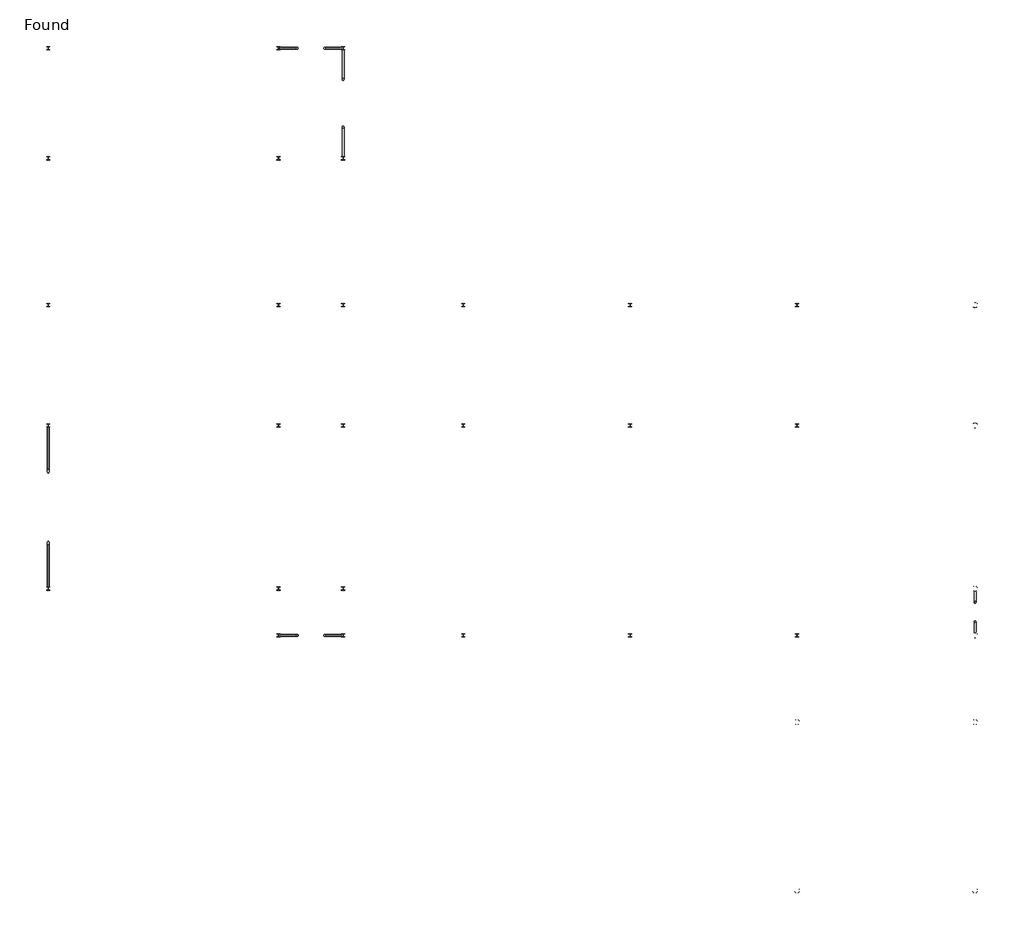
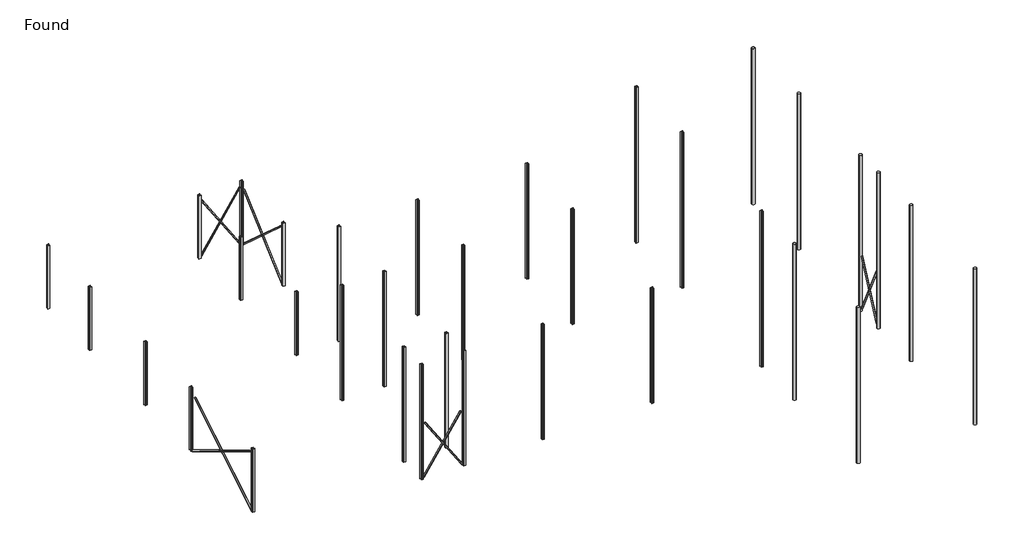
# One storey: 34 columns, 10 beams.
"""IFC4 building model written with IfcOpenShell, lengths in millimetres."""

import ifcopenshell
import ifcopenshell.guid

model = None  # the IFC model being written
_history = None  # IfcOwnerHistory: only IFC2X3 demands one
_inside = {}  # id of a spatial element -> (the spatial element, [elements in it])
_under = {}  # id of a project, library or spatial element -> (it, [spatial elements below it])
_declared = {}  # id of a project -> (the project, [libraries it declares])
_typed = {}  # id of a type object -> (the type object, [elements of that type])
_made_of = {}  # id of a material, layer set ... -> (it, [elements and type objects made of it])


def new_model(schema):
    """Start an empty IFC model of exactly this schema.

    Asked for "IFC4X3", IfcOpenShell would pick the latest addendum, in which some entities
    have other attributes; the version numbers below select the first issue.
    IFC2X3 requires an IfcOwnerHistory on every rooted entity: one is made here for all.
    """
    global model, _history
    if schema == "IFC4X3":
        model = ifcopenshell.file(schema_version=(4, 3, 0, 0))
    else:
        model = ifcopenshell.file(schema=schema)
    _inside.clear()
    _under.clear()
    _declared.clear()
    _typed.clear()
    _made_of.clear()
    _history = None
    if model.schema == "IFC2X3":
        org = make("IfcOrganization", Name="unknown")
        user = make(
            "IfcPersonAndOrganization",
            ThePerson=make("IfcPerson", FamilyName="unknown"),
            TheOrganization=org,
        )
        app = make(
            "IfcApplication",
            ApplicationDeveloper=org,
            Version="unknown",
            ApplicationFullName="unknown",
            ApplicationIdentifier="unknown",
        )
        _history = make(
            "IfcOwnerHistory",
            OwningUser=user,
            OwningApplication=app,
            ChangeAction="ADDED",
            CreationDate=0,
        )
    return model


def make(cls, **values):
    """One entity of the class cls with the attributes given. An attribute that is None is left unset."""
    return model.create_entity(
        cls, **{name: value for name, value in values.items() if value is not None}
    )


def rooted(cls, **values):
    """An entity with a GlobalId (a new one), such as an element, a storey or a relation."""
    return make(cls, GlobalId=ifcopenshell.guid.new(), OwnerHistory=_history, **values)


def si_unit(unit_type, name, prefix=None):
    """IfcSIUnit, for example si_unit("LENGTHUNIT", "METRE", prefix="MILLI")."""
    return make("IfcSIUnit", UnitType=unit_type, Prefix=prefix, Name=name)


def assignment(units):
    """IfcUnitAssignment: the units of a project."""
    return None if units is None else make("IfcUnitAssignment", Units=units)


def point(xyz):
    """IfcCartesianPoint."""
    return None if xyz is None else make("IfcCartesianPoint", Coordinates=xyz)


def direction(xyz):
    """IfcDirection."""
    return None if xyz is None else make("IfcDirection", DirectionRatios=xyz)


def frame(location, z_axis=None, x_axis=None):
    """IfcAxis2Placement3D, a coordinate frame: its origin and axes. An axis left out is left unset."""
    return make(
        "IfcAxis2Placement3D",
        Location=point(location),
        Axis=direction(z_axis),
        RefDirection=direction(x_axis),
    )


def frame_2d(location, x_axis=None):
    """IfcAxis2Placement2D, a coordinate frame in the plane: its origin and x axis."""
    return make(
        "IfcAxis2Placement2D", Location=point(location), RefDirection=direction(x_axis)
    )


def origin():
    """The frame at (0, 0, 0) with its axes left unset."""
    return frame((0.0, 0.0, 0.0))


def origin_2d():
    """The frame at (0, 0) in the plane with its x axis left unset."""
    return frame_2d((0.0, 0.0))


def place(relative_to, where):
    """IfcLocalPlacement: puts the frame where relative to a parent placement (None: the world)."""
    return make(
        "IfcLocalPlacement", PlacementRelTo=relative_to, RelativePlacement=where
    )


def context(
    kind, dimensions, precision=None, world=None, true_north=None, identifier=None
):
    """IfcGeometricRepresentationContext, for example the 3D "Model" context."""
    return make(
        "IfcGeometricRepresentationContext",
        ContextIdentifier=identifier,
        ContextType=kind,
        CoordinateSpaceDimension=dimensions,
        Precision=precision,
        WorldCoordinateSystem=world,
        TrueNorth=true_north,
    )


def project(units=None, contexts=None):
    """IfcProject with its units and contexts."""
    return rooted(
        "IfcProject",
        Name="project",
        RepresentationContexts=contexts,
        UnitsInContext=assignment(units),
    )


def spatial(cls, under=None, at=None, **own):
    """A site, building, storey or space (cls), placed at a placement, below another one or the project."""
    s = rooted(cls, ObjectPlacement=at, **own)
    if under is not None:
        _under.setdefault(under.id(), (under, []))[1].append(s)
    return s


def polyline(points):
    """IfcPolyline through the points."""
    return make("IfcPolyline", Points=[point(p) for p in points])


def circle_curve(where, radius):
    """IfcCircle in the frame where."""
    return make("IfcCircle", Position=where, Radius=radius)


def trimmed(basis, trim1, trim2, sense, master):
    """IfcTrimmedCurve: the piece of a basis curve between two trims."""
    return make(
        "IfcTrimmedCurve",
        BasisCurve=basis,
        Trim1=trim1,
        Trim2=trim2,
        SenseAgreement=sense,
        MasterRepresentation=master,
    )


def segment(curve, same_sense, transition):
    """IfcCompositeCurveSegment."""
    return make(
        "IfcCompositeCurveSegment",
        Transition=transition,
        SameSense=same_sense,
        ParentCurve=curve,
    )


def composite_curve(segments, self_intersect=None):
    """IfcCompositeCurve: segments joined end to end."""
    return make("IfcCompositeCurve", Segments=segments, SelfIntersect=self_intersect)


def outline(outer, holes=None, kind="AREA"):
    """IfcArbitraryClosedProfileDef: a profile drawn as a closed curve; with holes, ...WithVoids."""
    if holes is None:
        return make("IfcArbitraryClosedProfileDef", ProfileType=kind, OuterCurve=outer)
    return make(
        "IfcArbitraryProfileDefWithVoids",
        ProfileType=kind,
        OuterCurve=outer,
        InnerCurves=holes,
    )


def extrude(swept, where, along, depth):
    """IfcExtrudedAreaSolid: the profile swept, set in the frame where, extruded along a direction by depth."""
    return make(
        "IfcExtrudedAreaSolid",
        SweptArea=swept,
        Position=where,
        ExtrudedDirection=direction(along),
        Depth=depth,
    )


def shape(context_of_items, identifier, shape_type, items):
    """IfcShapeRepresentation: the items that make up one representation, for example the "Body"."""
    return make(
        "IfcShapeRepresentation",
        ContextOfItems=context_of_items,
        RepresentationIdentifier=identifier,
        RepresentationType=shape_type,
        Items=items,
    )


def source(mapping_origin, context_of_items, identifier, shape_type, items):
    """IfcRepresentationMap: a shape defined once, which mapped items show again and again."""
    return make(
        "IfcRepresentationMap",
        MappingOrigin=mapping_origin,
        MappedRepresentation=shape(context_of_items, identifier, shape_type, items),
    )


def transform(
    local_origin,
    x_axis=None,
    y_axis=None,
    z_axis=None,
    scale=None,
    scale2=None,
    scale3=None,
    uniform=True,
):
    """IfcCartesianTransformationOperator3D, or its non-uniform kind. x_axis, y_axis, z_axis: its Axis1, 2, 3."""
    if uniform:
        return make(
            "IfcCartesianTransformationOperator3D",
            Axis1=direction(x_axis),
            Axis2=direction(y_axis),
            LocalOrigin=point(local_origin),
            Scale=scale,
            Axis3=direction(z_axis),
        )
    return make(
        "IfcCartesianTransformationOperator3DnonUniform",
        Axis1=direction(x_axis),
        Axis2=direction(y_axis),
        LocalOrigin=point(local_origin),
        Scale=scale,
        Axis3=direction(z_axis),
        Scale2=scale2,
        Scale3=scale3,
    )


def mapped(mapping_source, mapping_target):
    """IfcMappedItem: shows the shape of a source again, moved by a transform."""
    return make(
        "IfcMappedItem", MappingSource=mapping_source, MappingTarget=mapping_target
    )


def made_of(thing, what):
    """Note that an element or type object is made of a material, layer set ...; save() writes the relation."""
    if what is not None:
        _made_of.setdefault(what.id(), (what, []))[1].append(thing)
    return thing


def element(
    cls,
    number,
    at=None,
    inside=None,
    cuts=None,
    type_object=None,
    material=None,
    context=None,
    identifier="Body",
    shape_type=None,
    held_by="IfcProductDefinitionShape",
    body=None,
    shapes=None,
    **own,
):
    """One element of the class cls, such as IfcWall. Its Tag is "e" and its number.

    at: its placement. inside: the storey or other place that contains it. cuts: it is an
    opening in that element (IfcRelVoidsElement). A single representation is given by context,
    identifier, shape_type and body (its items); several are given by shapes. held_by: the class
    of the entity that holds the representations. save() writes the other relations.
    """
    e = rooted(cls, Tag="e%d" % number, ObjectPlacement=at, **own)
    if body is not None:
        shapes = [shape(context, identifier, shape_type, body)]
    if shapes is not None:
        e.Representation = make(held_by, Representations=shapes)
    if inside is not None:
        _inside.setdefault(inside.id(), (inside, []))[1].append(e)
    if cuts is not None:
        rooted(
            "IfcRelVoidsElement", RelatingBuildingElement=cuts, RelatedOpeningElement=e
        )
    if type_object is not None:
        _typed.setdefault(type_object.id(), (type_object, []))[1].append(e)
    return made_of(e, material)


def aggregate(whole, parts):
    """IfcRelAggregates: a whole, such as a stair, and the parts it consists of."""
    return rooted("IfcRelAggregates", RelatingObject=whole, RelatedObjects=parts)


def save(model, path):
    """Write the relations noted so far, then the file.

    IfcRelAggregates (storeys below a building ...), IfcRelContainedInSpatialStructure (elements
    in a storey), IfcRelDefinesByType, IfcRelAssociatesMaterial and IfcRelDeclares: one each for
    every whole, place, type object, material and project.
    """
    for whole, parts in _under.values():
        aggregate(whole, parts)
    for where, things in _inside.values():
        rooted(
            "IfcRelContainedInSpatialStructure",
            RelatedElements=things,
            RelatingStructure=where,
        )
    for kind, things in _typed.values():
        rooted("IfcRelDefinesByType", RelatedObjects=things, RelatingType=kind)
    for what, things in _made_of.values():
        rooted("IfcRelAssociatesMaterial", RelatedObjects=things, RelatingMaterial=what)
    for by, libraries in _declared.values():
        rooted("IfcRelDeclares", RelatingContext=by, RelatedDefinitions=libraries)
    model.write(path)


def chs_circular_hollow_sections_chs88_9x5_8e8a5487(model_context):
    return source(origin(), model_context, "Body", "SweptSolid", [
        extrude(outline(composite_curve([segment(trimmed(circle_curve(origin_2d(), 44.45), [point((-44.45, 0.0))], [point((44.45, 0.0))], False, "CARTESIAN"), True, "CONTINUOUS"), segment(trimmed(circle_curve(origin_2d(), 44.45), [point((44.45, 0.0))], [point((-44.45, 0.0))], False, "CARTESIAN"), True, "CONTINUOUS")], self_intersect=False), holes=[composite_curve([segment(trimmed(circle_curve(origin_2d(), 39.45), [point((39.45, 0.0))], [point((-39.45, 0.0))], True, "CARTESIAN"), True, "CONTINUOUS"), segment(trimmed(circle_curve(origin_2d(), 39.45), [point((-39.45, 0.0))], [point((39.45, 0.0))], True, "CARTESIAN"), True, "CONTINUOUS")], self_intersect=False)]), frame((-2401.5, 0.0, 0.0), z_axis=(1.0, 0.0, 0.0), x_axis=(0.0, 1.0, 0.0)), (0.0, 0.0, 1.0), 4939.0),
    ])


def chs_circular_hollow_sections_chs88_9x5_aee6d157(model_context):
    return source(origin(), model_context, "Body", "SweptSolid", [
        extrude(outline(composite_curve([segment(trimmed(circle_curve(origin_2d(), 44.45), [point((-44.45, 0.0))], [point((44.45, 0.0))], False, "CARTESIAN"), True, "CONTINUOUS"), segment(trimmed(circle_curve(origin_2d(), 44.45), [point((44.45, 0.0))], [point((-44.45, 0.0))], False, "CARTESIAN"), True, "CONTINUOUS")], self_intersect=False), holes=[composite_curve([segment(trimmed(circle_curve(origin_2d(), 39.45), [point((39.45, 0.0))], [point((-39.45, 0.0))], True, "CARTESIAN"), True, "CONTINUOUS"), segment(trimmed(circle_curve(origin_2d(), 39.45), [point((-39.45, 0.0))], [point((39.45, 0.0))], True, "CARTESIAN"), True, "CONTINUOUS")], self_intersect=False)]), frame((-2221.0, 0.0, 0.0), z_axis=(1.0, 0.0, 0.0), x_axis=(0.0, 1.0, 0.0)), (0.0, 0.0, 1.0), 4255.0),
    ])


def chs_circular_hollow_sections_chs88_9x5_44a27128(model_context):
    return source(origin(), model_context, "Body", "SweptSolid", [
        extrude(outline(composite_curve([segment(trimmed(circle_curve(origin_2d(), 44.45), [point((-44.45, 0.0))], [point((44.45, 0.0))], False, "CARTESIAN"), True, "CONTINUOUS"), segment(trimmed(circle_curve(origin_2d(), 44.45), [point((44.45, 0.0))], [point((-44.45, 0.0))], False, "CARTESIAN"), True, "CONTINUOUS")], self_intersect=False), holes=[composite_curve([segment(trimmed(circle_curve(origin_2d(), 39.45), [point((39.45, 0.0))], [point((-39.45, 0.0))], True, "CARTESIAN"), True, "CONTINUOUS"), segment(trimmed(circle_curve(origin_2d(), 39.45), [point((-39.45, 0.0))], [point((39.45, 0.0))], True, "CARTESIAN"), True, "CONTINUOUS")], self_intersect=False)]), frame((-4246.5, 0.0, 0.0), z_axis=(1.0, 0.0, 0.0), x_axis=(0.0, 1.0, 0.0)), (0.0, 0.0, 1.0), 8092.0),
    ])


def chs_circular_hollow_sections_chs88_9x5_23af39ed(model_context):
    return source(origin(), model_context, "Body", "SweptSolid", [
        extrude(outline(composite_curve([segment(trimmed(circle_curve(origin_2d(), 44.45), [point((-44.45, 0.0))], [point((44.45, 0.0))], False, "CARTESIAN"), True, "CONTINUOUS"), segment(trimmed(circle_curve(origin_2d(), 44.45), [point((44.45, 0.0))], [point((-44.45, 0.0))], False, "CARTESIAN"), True, "CONTINUOUS")], self_intersect=False), holes=[composite_curve([segment(trimmed(circle_curve(origin_2d(), 39.45), [point((39.45, 0.0))], [point((-39.45, 0.0))], True, "CARTESIAN"), True, "CONTINUOUS"), segment(trimmed(circle_curve(origin_2d(), 39.45), [point((-39.45, 0.0))], [point((39.45, 0.0))], True, "CARTESIAN"), True, "CONTINUOUS")], self_intersect=False)]), frame((-4247.0, 0.0, 0.0), z_axis=(1.0, 0.0, 0.0), x_axis=(0.0, 1.0, 0.0)), (0.0, 0.0, 1.0), 8023.0),
    ])


def chs_circular_hollow_sections_chs88_9x5_c747e93b(model_context):
    return source(origin(), model_context, "Body", "SweptSolid", [
        extrude(outline(composite_curve([segment(trimmed(circle_curve(origin_2d(), 44.45), [point((-44.45, 0.0))], [point((44.45, 0.0))], False, "CARTESIAN"), True, "CONTINUOUS"), segment(trimmed(circle_curve(origin_2d(), 44.45), [point((44.45, 0.0))], [point((-44.45, 0.0))], False, "CARTESIAN"), True, "CONTINUOUS")], self_intersect=False), holes=[composite_curve([segment(trimmed(circle_curve(origin_2d(), 39.45), [point((39.45, 0.0))], [point((-39.45, 0.0))], True, "CARTESIAN"), True, "CONTINUOUS"), segment(trimmed(circle_curve(origin_2d(), 39.45), [point((-39.45, 0.0))], [point((39.45, 0.0))], True, "CARTESIAN"), True, "CONTINUOUS")], self_intersect=False)]), frame((-2955.0, 0.0, 0.0), z_axis=(1.0, 0.0, 0.0), x_axis=(0.0, 1.0, 0.0)), (0.0, 0.0, 1.0), 6214.0),
    ])


def chs_circular_hollow_sections_chs88_9x5_28c71187(model_context):
    return source(origin(), model_context, "Body", "SweptSolid", [
        extrude(outline(composite_curve([segment(trimmed(circle_curve(origin_2d(), 44.45), [point((-44.45, 0.0))], [point((44.45, 0.0))], False, "CARTESIAN"), True, "CONTINUOUS"), segment(trimmed(circle_curve(origin_2d(), 44.45), [point((44.45, 0.0))], [point((-44.45, 0.0))], False, "CARTESIAN"), True, "CONTINUOUS")], self_intersect=False), holes=[composite_curve([segment(trimmed(circle_curve(origin_2d(), 39.45), [point((39.45, 0.0))], [point((-39.45, 0.0))], True, "CARTESIAN"), True, "CONTINUOUS"), segment(trimmed(circle_curve(origin_2d(), 39.45), [point((-39.45, 0.0))], [point((39.45, 0.0))], True, "CARTESIAN"), True, "CONTINUOUS")], self_intersect=False)]), frame((-2958.0, 0.0, 0.0), z_axis=(1.0, 0.0, 0.0), x_axis=(0.0, 1.0, 0.0)), (0.0, 0.0, 1.0), 6217.0),
    ])


def chs_circular_hollow_sections_chs88_9x5_b0df0a75(model_context):
    return source(origin(), model_context, "Body", "SweptSolid", [
        extrude(outline(composite_curve([segment(trimmed(circle_curve(origin_2d(), 44.45), [point((-44.45, 0.0))], [point((44.45, 0.0))], False, "CARTESIAN"), True, "CONTINUOUS"), segment(trimmed(circle_curve(origin_2d(), 44.45), [point((44.45, 0.0))], [point((-44.45, 0.0))], False, "CARTESIAN"), True, "CONTINUOUS")], self_intersect=False), holes=[composite_curve([segment(trimmed(circle_curve(origin_2d(), 39.45), [point((39.45, 0.0))], [point((-39.45, 0.0))], True, "CARTESIAN"), True, "CONTINUOUS"), segment(trimmed(circle_curve(origin_2d(), 39.45), [point((-39.45, 0.0))], [point((39.45, 0.0))], True, "CARTESIAN"), True, "CONTINUOUS")], self_intersect=False)]), frame((-2537.0, 0.0, 0.0), z_axis=(1.0, 0.0, 0.0), x_axis=(0.0, 1.0, 0.0)), (0.0, 0.0, 1.0), 4741.0),
    ])


def chs_circular_hollow_sections_chs88_9x5_d7b9bca4(model_context):
    return source(origin(), model_context, "Body", "SweptSolid", [
        extrude(outline(composite_curve([segment(trimmed(circle_curve(origin_2d(), 44.45), [point((-44.45, 0.0))], [point((44.45, 0.0))], False, "CARTESIAN"), True, "CONTINUOUS"), segment(trimmed(circle_curve(origin_2d(), 44.45), [point((44.45, 0.0))], [point((-44.45, 0.0))], False, "CARTESIAN"), True, "CONTINUOUS")], self_intersect=False), holes=[composite_curve([segment(trimmed(circle_curve(origin_2d(), 39.45), [point((39.45, 0.0))], [point((-39.45, 0.0))], True, "CARTESIAN"), True, "CONTINUOUS"), segment(trimmed(circle_curve(origin_2d(), 39.45), [point((-39.45, 0.0))], [point((39.45, 0.0))], True, "CARTESIAN"), True, "CONTINUOUS")], self_intersect=False)]), frame((-2537.5, 0.0, 0.0), z_axis=(1.0, 0.0, 0.0), x_axis=(0.0, 1.0, 0.0)), (0.0, 0.0, 1.0), 4716.0),
    ])


def chs_circular_hollow_sections_column_chs_219_1x6_3_8ef82d70(model_context):
    return source(origin(), model_context, "Body", "SweptSolid", [
        extrude(outline(composite_curve([segment(trimmed(circle_curve(origin_2d(), 109.55), [point((-109.55, 0.0))], [point((109.55, 0.0))], False, "CARTESIAN"), True, "CONTINUOUS"), segment(trimmed(circle_curve(origin_2d(), 109.55), [point((109.55, 0.0))], [point((-109.55, 0.0))], False, "CARTESIAN"), True, "CONTINUOUS")], self_intersect=False), holes=[composite_curve([segment(trimmed(circle_curve(origin_2d(), 103.25), [point((-103.25, 0.0))], [point((103.25, 0.0))], True, "CARTESIAN"), True, "CONTINUOUS"), segment(trimmed(circle_curve(origin_2d(), 103.25), [point((103.25, 0.0))], [point((-103.25, 0.0))], True, "CARTESIAN"), True, "CONTINUOUS")], self_intersect=False)]), frame((0.0, 0.0, -450.0), z_axis=(0.0, 0.0, 1.0), x_axis=(1.0, 0.0, 0.0)), (0.0, 0.0, 1.0), 11450.0),
    ])


def ukc152x152x23_50c3cb11(model_context):
    return source(origin(), model_context, "Body", "SweptSolid", [
        extrude(outline(composite_curve([segment(polyline([(76.1, 76.2), (76.1, 69.4), (10.5, 69.4)]), True, "CONTINUOUS"), segment(trimmed(circle_curve(frame_2d((10.5, 61.8)), 7.6), [point((10.5, 69.4))], [point((2.9, 61.8))], True, "CARTESIAN"), True, "CONTINUOUS"), segment(polyline([(2.9, 61.8), (2.9, -61.8)]), True, "CONTINUOUS"), segment(trimmed(circle_curve(frame_2d((10.5, -61.8)), 7.6), [point((2.9, -61.8))], [point((10.5, -69.4))], True, "CARTESIAN"), True, "CONTINUOUS"), segment(polyline([(10.5, -69.4), (76.1, -69.4), (76.1, -76.2), (-76.1, -76.2), (-76.1, -69.4), (-10.5, -69.4)]), True, "CONTINUOUS"), segment(trimmed(circle_curve(frame_2d((-10.5, -61.8)), 7.6), [point((-10.5, -69.4))], [point((-2.9, -61.8))], True, "CARTESIAN"), True, "CONTINUOUS"), segment(polyline([(-2.9, -61.8), (-2.9, 61.8)]), True, "CONTINUOUS"), segment(trimmed(circle_curve(frame_2d((-10.5, 61.8)), 7.6), [point((-2.9, 61.8))], [point((-10.5, 69.4))], True, "CARTESIAN"), True, "CONTINUOUS"), segment(polyline([(-10.5, 69.4), (-76.1, 69.4), (-76.1, 76.2), (76.1, 76.2)]), True, "CONTINUOUS")], self_intersect=False)), frame((0.0, 0.0, -450.0), z_axis=(0.0, 0.0, 1.0), x_axis=(1.0, 0.0, 0.0)), (0.0, 0.0, 1.0), 4650.0),
    ])


def ukc152x152x23_9a19e920(model_context):
    return source(origin(), model_context, "Body", "SweptSolid", [
        extrude(outline(composite_curve([segment(polyline([(76.1, 76.2), (76.1, 69.4), (10.5, 69.4)]), True, "CONTINUOUS"), segment(trimmed(circle_curve(frame_2d((10.5, 61.8)), 7.6), [point((10.5, 69.4))], [point((2.9, 61.8))], True, "CARTESIAN"), True, "CONTINUOUS"), segment(polyline([(2.9, 61.8), (2.9, -61.8)]), True, "CONTINUOUS"), segment(trimmed(circle_curve(frame_2d((10.5, -61.8)), 7.6), [point((2.9, -61.8))], [point((10.5, -69.4))], True, "CARTESIAN"), True, "CONTINUOUS"), segment(polyline([(10.5, -69.4), (76.1, -69.4), (76.1, -76.2), (-76.1, -76.2), (-76.1, -69.4), (-10.5, -69.4)]), True, "CONTINUOUS"), segment(trimmed(circle_curve(frame_2d((-10.5, -61.8)), 7.6), [point((-10.5, -69.4))], [point((-2.9, -61.8))], True, "CARTESIAN"), True, "CONTINUOUS"), segment(polyline([(-2.9, -61.8), (-2.9, 61.8)]), True, "CONTINUOUS"), segment(trimmed(circle_curve(frame_2d((-10.5, 61.8)), 7.6), [point((-2.9, 61.8))], [point((-10.5, 69.4))], True, "CARTESIAN"), True, "CONTINUOUS"), segment(polyline([(-10.5, 69.4), (-76.1, 69.4), (-76.1, 76.2), (76.1, 76.2)]), True, "CONTINUOUS")], self_intersect=False)), frame((0.0, 0.0, -450.0), z_axis=(0.0, 0.0, 1.0), x_axis=(1.0, 0.0, 0.0)), (0.0, 0.0, 1.0), 8450.0),
    ])


def ukc152x152x23_eef55d6c(model_context):
    return source(origin(), model_context, "Body", "SweptSolid", [
        extrude(outline(composite_curve([segment(polyline([(76.1, 76.2), (76.1, 69.4), (10.5, 69.4)]), True, "CONTINUOUS"), segment(trimmed(circle_curve(frame_2d((10.5, 61.8)), 7.6), [point((10.5, 69.4))], [point((2.9, 61.8))], True, "CARTESIAN"), True, "CONTINUOUS"), segment(polyline([(2.9, 61.8), (2.9, -61.8)]), True, "CONTINUOUS"), segment(trimmed(circle_curve(frame_2d((10.5, -61.8)), 7.6), [point((2.9, -61.8))], [point((10.5, -69.4))], True, "CARTESIAN"), True, "CONTINUOUS"), segment(polyline([(10.5, -69.4), (76.1, -69.4), (76.1, -76.2), (-76.1, -76.2), (-76.1, -69.4), (-10.5, -69.4)]), True, "CONTINUOUS"), segment(trimmed(circle_curve(frame_2d((-10.5, -61.8)), 7.6), [point((-10.5, -69.4))], [point((-2.9, -61.8))], True, "CARTESIAN"), True, "CONTINUOUS"), segment(polyline([(-2.9, -61.8), (-2.9, 61.8)]), True, "CONTINUOUS"), segment(trimmed(circle_curve(frame_2d((-10.5, 61.8)), 7.6), [point((-2.9, 61.8))], [point((-10.5, 69.4))], True, "CARTESIAN"), True, "CONTINUOUS"), segment(polyline([(-10.5, 69.4), (-76.1, 69.4), (-76.1, 76.2), (76.1, 76.2)]), True, "CONTINUOUS")], self_intersect=False)), frame((0.0, 0.0, -450.0), z_axis=(0.0, 0.0, 1.0), x_axis=(1.0, 0.0, 0.0)), (0.0, 0.0, 1.0), 11450.0),
    ])


model = new_model("IFC4")

# Units and contexts
model_context = context("Model", 3, world=origin())
ifc_project = project(units=[si_unit("LENGTHUNIT", "METRE", prefix="MILLI")], contexts=[model_context])

# Site, building, storey
site = spatial("IfcSite", under=ifc_project)
building = spatial("IfcBuilding", under=site)
storey = spatial("IfcBuildingStorey", under=building, Name="Found", Elevation=-450.0)

# Beams
placement = place(None, origin())
chs_circular_hollow_sections_chs88_9x5_shape = chs_circular_hollow_sections_chs88_9x5_8e8a5487(model_context)
element("IfcBeam", 1, ObjectType="CHS-Circular Hollow Sections : CHS88.9x5", at=placement, inside=storey, context=model_context, shape_type="MappedRepresentation", body=[
    mapped(chs_circular_hollow_sections_chs88_9x5_shape, transform((3829.8953663, 7943.0447999, 1775.653394), x_axis=(-0.5477301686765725, 0.0, -0.836655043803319), y_axis=(0.0, -1.0000000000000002, 0.0), z_axis=(-0.836655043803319, 0.0, 0.5477301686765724))),
])
element("IfcBeam", 2, ObjectType="CHS-Circular Hollow Sections : CHS88.9x5", at=placement, inside=storey, context=model_context, shape_type="MappedRepresentation", body=[
    mapped(chs_circular_hollow_sections_chs88_9x5_shape, transform((3755.5167329, 7943.0447999, 1775.653394), x_axis=(0.5477301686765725, 0.0, -0.8366550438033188), y_axis=(0.0, 1.0, 0.0), z_axis=(0.8366550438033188, 0.0, 0.5477301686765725))),
])
chs_circular_hollow_sections_chs88_9x5_2_shape = chs_circular_hollow_sections_chs88_9x5_aee6d157(model_context)
element("IfcBeam", 3, ObjectType="CHS-Circular Hollow Sections : CHS88.9x5", at=placement, inside=storey, context=model_context, shape_type="MappedRepresentation", body=[
    mapped(chs_circular_hollow_sections_chs88_9x5_2_shape, transform((34119.7060496, -17772.7924167, 1780.9539156), x_axis=(0.0, 0.4284833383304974, 0.903549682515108), y_axis=(-1.0, 0.0, 0.0), z_axis=(0.0, -0.903549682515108, 0.42848333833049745))),
])
element("IfcBeam", 4, ObjectType="CHS-Circular Hollow Sections : CHS88.9x5", at=placement, inside=storey, context=model_context, shape_type="MappedRepresentation", body=[
    mapped(chs_circular_hollow_sections_chs88_9x5_2_shape, transform((34119.7060496, -17853.1179835, 1780.9539156), x_axis=(0.0, -0.42848333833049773, 0.9035496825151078), y_axis=(1.0, 0.0, 0.0), z_axis=(0.0, 0.9035496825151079, 0.42848333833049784))),
])
chs_circular_hollow_sections_chs88_9x5_3_shape = chs_circular_hollow_sections_chs88_9x5_44a27128(model_context)
element("IfcBeam", 5, ObjectType="CHS-Circular Hollow Sections : CHS88.9x5", at=placement, inside=storey, context=model_context, shape_type="MappedRepresentation", body=[
    mapped(chs_circular_hollow_sections_chs88_9x5_3_shape, transform((-8196.2939504, -13041.3486425, 1751.6068709), x_axis=(0.0, -0.8571673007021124, 0.5150380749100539), y_axis=(1.0, 0.0, 0.0), z_axis=(0.0, 0.5150380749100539, 0.8571673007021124))),
])
chs_circular_hollow_sections_chs88_9x5_4_shape = chs_circular_hollow_sections_chs88_9x5_23af39ed(model_context)
element("IfcBeam", 6, ObjectType="CHS-Circular Hollow Sections : CHS88.9x5", at=placement, inside=storey, context=model_context, shape_type="MappedRepresentation", body=[
    mapped(chs_circular_hollow_sections_chs88_9x5_4_shape, transform((-8196.2939504, -12995.5617576, 1751.6068709), x_axis=(0.0, 0.8571673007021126, 0.5150380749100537), y_axis=(-1.0, 0.0, 0.0), z_axis=(0.0, -0.5150380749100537, 0.8571673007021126))),
])
chs_circular_hollow_sections_chs88_9x5_5_shape = chs_circular_hollow_sections_chs88_9x5_c747e93b(model_context)
element("IfcBeam", 7, ObjectType="CHS-Circular Hollow Sections : CHS88.9x5", at=placement, inside=storey, context=model_context, shape_type="MappedRepresentation", body=[
    mapped(chs_circular_hollow_sections_chs88_9x5_5_shape, transform((5265.7060496, 5458.1851792, 1766.8752295), x_axis=(0.0, -0.7452141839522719, -0.6668251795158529), y_axis=(1.0, 0.0, 0.0), z_axis=(0.0, -0.6668251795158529, 0.7452141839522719))),
])
chs_circular_hollow_sections_chs88_9x5_6_shape = chs_circular_hollow_sections_chs88_9x5_28c71187(model_context)
element("IfcBeam", 8, ObjectType="CHS-Circular Hollow Sections : CHS88.9x5", at=placement, inside=storey, context=model_context, shape_type="MappedRepresentation", body=[
    mapped(chs_circular_hollow_sections_chs88_9x5_6_shape, transform((5265.7060496, 5398.9044207, 1766.8752295), x_axis=(0.0, 0.745214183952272, -0.6668251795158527), y_axis=(-1.0, 0.0, 0.0), z_axis=(0.0, 0.6668251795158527, 0.745214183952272))),
])
chs_circular_hollow_sections_chs88_9x5_7_shape = chs_circular_hollow_sections_chs88_9x5_b0df0a75(model_context)
element("IfcBeam", 9, ObjectType="CHS-Circular Hollow Sections : CHS88.9x5", at=placement, inside=storey, context=model_context, shape_type="MappedRepresentation", body=[
    mapped(chs_circular_hollow_sections_chs88_9x5_7_shape, transform((3755.5167329, -18879.9552001, 1775.653394), x_axis=(-0.5477301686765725, 0.0, 0.8366550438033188), y_axis=(0.0, -1.0, 0.0), z_axis=(0.8366550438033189, 0.0, 0.5477301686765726))),
])
chs_circular_hollow_sections_chs88_9x5_8_shape = chs_circular_hollow_sections_chs88_9x5_d7b9bca4(model_context)
element("IfcBeam", 10, ObjectType="CHS-Circular Hollow Sections : CHS88.9x5", at=placement, inside=storey, context=model_context, shape_type="MappedRepresentation", body=[
    mapped(chs_circular_hollow_sections_chs88_9x5_8_shape, transform((3829.8953663, -18879.9552001, 1775.653394), x_axis=(0.5477301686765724, 0.0, 0.836655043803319), y_axis=(0.0, 1.0, 0.0), z_axis=(-0.836655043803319, 0.0, 0.5477301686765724))),
])

# Columns
chs_circular_hollow_sections_column_chs_219_1x6_3_shape = chs_circular_hollow_sections_column_chs_219_1x6_3_8ef82d70(model_context)
element("IfcColumn", 11, ObjectType="CHS-Circular Hollow Sections-Column : CHS 219.1x6.3", at=placement, inside=storey, context=model_context, shape_type="MappedRepresentation", body=[
    mapped(chs_circular_hollow_sections_column_chs_219_1x6_3_shape, transform((25991.7060496, -22841.9552001, 0.0), x_axis=(-1.0, 0.0, 0.0), y_axis=(0.0, -1.0, 0.0), z_axis=(0.0, 0.0, 1.0))),
])
element("IfcColumn", 12, ObjectType="CHS-Circular Hollow Sections-Column : CHS 219.1x6.3", at=placement, inside=storey, context=model_context, shape_type="MappedRepresentation", body=[
    mapped(chs_circular_hollow_sections_column_chs_219_1x6_3_shape, transform((25991.7060496, -30537.9552001, 0.0), x_axis=(-1.0, 0.0, 0.0), y_axis=(0.0, -1.0, 0.0), z_axis=(0.0, 0.0, 1.0))),
])
element("IfcColumn", 13, ObjectType="CHS-Circular Hollow Sections-Column : CHS 219.1x6.3", at=placement, inside=storey, context=model_context, shape_type="MappedRepresentation", body=[
    mapped(chs_circular_hollow_sections_column_chs_219_1x6_3_shape, transform((34119.7060496, -3791.9552001, 0.0), x_axis=(-1.0, 0.0, 0.0), y_axis=(0.0, -1.0, 0.0), z_axis=(0.0, 0.0, 1.0))),
])
element("IfcColumn", 14, ObjectType="CHS-Circular Hollow Sections-Column : CHS 219.1x6.3", at=placement, inside=storey, context=model_context, shape_type="MappedRepresentation", body=[
    mapped(chs_circular_hollow_sections_column_chs_219_1x6_3_shape, transform((34119.7060496, -9290.9552001, 0.0), x_axis=(-1.0, 0.0, 0.0), y_axis=(0.0, -1.0, 0.0), z_axis=(0.0, 0.0, 1.0))),
])
element("IfcColumn", 15, ObjectType="CHS-Circular Hollow Sections-Column : CHS 219.1x6.3", at=placement, inside=storey, context=model_context, shape_type="MappedRepresentation", body=[
    mapped(chs_circular_hollow_sections_column_chs_219_1x6_3_shape, transform((34119.7060496, -16745.9552001, 0.0), x_axis=(-1.0, 0.0, 0.0), y_axis=(0.0, -1.0, 0.0), z_axis=(0.0, 0.0, 1.0))),
])
element("IfcColumn", 16, ObjectType="CHS-Circular Hollow Sections-Column : CHS 219.1x6.3", at=placement, inside=storey, context=model_context, shape_type="MappedRepresentation", body=[
    mapped(chs_circular_hollow_sections_column_chs_219_1x6_3_shape, transform((34119.7060496, -18879.9552001, 0.0), x_axis=(-1.0, 0.0, 0.0), y_axis=(0.0, -1.0, 0.0), z_axis=(0.0, 0.0, 1.0))),
])
element("IfcColumn", 17, ObjectType="CHS-Circular Hollow Sections-Column : CHS 219.1x6.3", at=placement, inside=storey, context=model_context, shape_type="MappedRepresentation", body=[
    mapped(chs_circular_hollow_sections_column_chs_219_1x6_3_shape, transform((34119.7060496, -22841.9552001, 0.0), x_axis=(-1.0, 0.0, 0.0), y_axis=(0.0, -1.0, 0.0), z_axis=(0.0, 0.0, 1.0))),
])
element("IfcColumn", 18, ObjectType="CHS-Circular Hollow Sections-Column : CHS 219.1x6.3", at=placement, inside=storey, context=model_context, shape_type="MappedRepresentation", body=[
    mapped(chs_circular_hollow_sections_column_chs_219_1x6_3_shape, transform((34119.7060496, -30537.9552001, 0.0), x_axis=(-1.0, 0.0, 0.0), y_axis=(0.0, -1.0, 0.0), z_axis=(0.0, 0.0, 1.0))),
])
ukc152x152x23_shape = ukc152x152x23_50c3cb11(model_context)
element("IfcColumn", 19, ObjectType="UKC-UK Columns-Column : UKC152x152x23", at=placement, inside=storey, context=model_context, shape_type="MappedRepresentation", body=[
    mapped(ukc152x152x23_shape, transform((-8196.2939504, 7943.0447999, 0.0), x_axis=(-1.0, 0.0, 0.0), y_axis=(0.0, -1.0, 0.0), z_axis=(0.0, 0.0, 1.0))),
])
element("IfcColumn", 20, ObjectType="UKC-UK Columns-Column : UKC152x152x23", at=placement, inside=storey, context=model_context, shape_type="MappedRepresentation", body=[
    mapped(ukc152x152x23_shape, transform((-8196.2939504, 2914.0447999, 0.0), x_axis=(-1.0, 0.0, 0.0), y_axis=(0.0, -1.0, 0.0), z_axis=(0.0, 0.0, 1.0))),
])
element("IfcColumn", 21, ObjectType="UKC-UK Columns-Column : UKC152x152x23", at=placement, inside=storey, context=model_context, shape_type="MappedRepresentation", body=[
    mapped(ukc152x152x23_shape, transform((-8196.2939504, -3791.9552001, 0.0), x_axis=(-1.0, 0.0, 0.0), y_axis=(0.0, -1.0, 0.0), z_axis=(0.0, 0.0, 1.0))),
])
element("IfcColumn", 22, ObjectType="UKC-UK Columns-Column : UKC152x152x23", at=placement, inside=storey, context=model_context, shape_type="MappedRepresentation", body=[
    mapped(ukc152x152x23_shape, transform((-8196.2939504, -9290.9552001, 0.0), x_axis=(-1.0, 0.0, 0.0), y_axis=(0.0, -1.0, 0.0), z_axis=(0.0, 0.0, 1.0))),
])
element("IfcColumn", 23, ObjectType="UKC-UK Columns-Column : UKC152x152x23", at=placement, inside=storey, context=model_context, shape_type="MappedRepresentation", body=[
    mapped(ukc152x152x23_shape, transform((-8196.2939504, -16745.9552001, 0.0), x_axis=(-1.0, 0.0, 0.0), y_axis=(0.0, -1.0, 0.0), z_axis=(0.0, 0.0, 1.0))),
])
element("IfcColumn", 24, ObjectType="UKC-UK Columns-Column : UKC152x152x23", at=placement, inside=storey, context=model_context, shape_type="MappedRepresentation", body=[
    mapped(ukc152x152x23_shape, transform((2319.7060496, 7943.0447999, 0.0), x_axis=(-1.0, 0.0, 0.0), y_axis=(0.0, -1.0, 0.0), z_axis=(0.0, 0.0, 1.0))),
])
element("IfcColumn", 25, ObjectType="UKC-UK Columns-Column : UKC152x152x23", at=placement, inside=storey, context=model_context, shape_type="MappedRepresentation", body=[
    mapped(ukc152x152x23_shape, transform((2319.7060496, 2914.0447999, 0.0), x_axis=(-1.0, 0.0, 0.0), y_axis=(0.0, -1.0, 0.0), z_axis=(0.0, 0.0, 1.0))),
])
element("IfcColumn", 26, ObjectType="UKC-UK Columns-Column : UKC152x152x23", at=placement, inside=storey, context=model_context, shape_type="MappedRepresentation", body=[
    mapped(ukc152x152x23_shape, transform((2319.7060496, -3791.9552001, 0.0), x_axis=(-1.0, 0.0, 0.0), y_axis=(0.0, -1.0, 0.0), z_axis=(0.0, 0.0, 1.0))),
])
element("IfcColumn", 27, ObjectType="UKC-UK Columns-Column : UKC152x152x23", at=placement, inside=storey, context=model_context, shape_type="MappedRepresentation", body=[
    mapped(ukc152x152x23_shape, transform((5265.7060496, 7943.0447999, 0.0), x_axis=(-1.0, 0.0, 0.0), y_axis=(0.0, -1.0, 0.0), z_axis=(0.0, 0.0, 1.0))),
])
element("IfcColumn", 28, ObjectType="UKC-UK Columns-Column : UKC152x152x23", at=placement, inside=storey, context=model_context, shape_type="MappedRepresentation", body=[
    mapped(ukc152x152x23_shape, transform((5265.7060496, 2914.0447999, 0.0), x_axis=(-1.0, 0.0, 0.0), y_axis=(0.0, -1.0, 0.0), z_axis=(0.0, 0.0, 1.0))),
])
ukc152x152x23_2_shape = ukc152x152x23_9a19e920(model_context)
element("IfcColumn", 29, ObjectType="UKC-UK Columns-Column : UKC152x152x23", at=placement, inside=storey, context=model_context, shape_type="MappedRepresentation", body=[
    mapped(ukc152x152x23_2_shape, transform((2319.7060496, -9290.9552001, 0.0), x_axis=(-1.0, 0.0, 0.0), y_axis=(0.0, -1.0, 0.0), z_axis=(0.0, 0.0, 1.0))),
])
element("IfcColumn", 30, ObjectType="UKC-UK Columns-Column : UKC152x152x23", at=placement, inside=storey, context=model_context, shape_type="MappedRepresentation", body=[
    mapped(ukc152x152x23_2_shape, transform((2319.7060496, -16745.9552001, 0.0), x_axis=(-1.0, 0.0, 0.0), y_axis=(0.0, -1.0, 0.0), z_axis=(0.0, 0.0, 1.0))),
])
element("IfcColumn", 31, ObjectType="UKC-UK Columns-Column : UKC152x152x23", at=placement, inside=storey, context=model_context, shape_type="MappedRepresentation", body=[
    mapped(ukc152x152x23_2_shape, transform((2319.7060496, -18879.9552001, 0.0), x_axis=(-1.0, 0.0, 0.0), y_axis=(0.0, -1.0, 0.0), z_axis=(0.0, 0.0, 1.0))),
])
element("IfcColumn", 32, ObjectType="UKC-UK Columns-Column : UKC152x152x23", at=placement, inside=storey, context=model_context, shape_type="MappedRepresentation", body=[
    mapped(ukc152x152x23_2_shape, transform((5265.7060496, -3791.9552001, 0.0), x_axis=(-1.0, 0.0, 0.0), y_axis=(0.0, -1.0, 0.0), z_axis=(0.0, 0.0, 1.0))),
])
element("IfcColumn", 33, ObjectType="UKC-UK Columns-Column : UKC152x152x23", at=placement, inside=storey, context=model_context, shape_type="MappedRepresentation", body=[
    mapped(ukc152x152x23_2_shape, transform((5265.7060496, -9290.9552001, 0.0), x_axis=(-1.0, 0.0, 0.0), y_axis=(0.0, -1.0, 0.0), z_axis=(0.0, 0.0, 1.0))),
])
element("IfcColumn", 34, ObjectType="UKC-UK Columns-Column : UKC152x152x23", at=placement, inside=storey, context=model_context, shape_type="MappedRepresentation", body=[
    mapped(ukc152x152x23_2_shape, transform((5265.7060496, -16745.9552001, 0.0), x_axis=(-1.0, 0.0, 0.0), y_axis=(0.0, -1.0, 0.0), z_axis=(0.0, 0.0, 1.0))),
])
element("IfcColumn", 35, ObjectType="UKC-UK Columns-Column : UKC152x152x23", at=placement, inside=storey, context=model_context, shape_type="MappedRepresentation", body=[
    mapped(ukc152x152x23_2_shape, transform((5265.7060496, -18879.9552001, 0.0), x_axis=(-1.0, 0.0, 0.0), y_axis=(0.0, -1.0, 0.0), z_axis=(0.0, 0.0, 1.0))),
])
element("IfcColumn", 36, ObjectType="UKC-UK Columns-Column : UKC152x152x23", at=placement, inside=storey, context=model_context, shape_type="MappedRepresentation", body=[
    mapped(ukc152x152x23_2_shape, transform((10751.7060496, -3791.9552001, 0.0), x_axis=(-1.0, 0.0, 0.0), y_axis=(0.0, -1.0, 0.0), z_axis=(0.0, 0.0, 1.0))),
])
element("IfcColumn", 37, ObjectType="UKC-UK Columns-Column : UKC152x152x23", at=placement, inside=storey, context=model_context, shape_type="MappedRepresentation", body=[
    mapped(ukc152x152x23_2_shape, transform((10751.7060496, -9290.9552001, 0.0), x_axis=(-1.0, 0.0, 0.0), y_axis=(0.0, -1.0, 0.0), z_axis=(0.0, 0.0, 1.0))),
])
element("IfcColumn", 38, ObjectType="UKC-UK Columns-Column : UKC152x152x23", at=placement, inside=storey, context=model_context, shape_type="MappedRepresentation", body=[
    mapped(ukc152x152x23_2_shape, transform((10751.7060496, -18879.9552001, 0.0), x_axis=(-1.0, 0.0, 0.0), y_axis=(0.0, -1.0, 0.0), z_axis=(0.0, 0.0, 1.0))),
])
element("IfcColumn", 39, ObjectType="UKC-UK Columns-Column : UKC152x152x23", at=placement, inside=storey, context=model_context, shape_type="MappedRepresentation", body=[
    mapped(ukc152x152x23_2_shape, transform((18371.7060496, -3791.9552001, 0.0), x_axis=(-1.0, 0.0, 0.0), y_axis=(0.0, -1.0, 0.0), z_axis=(0.0, 0.0, 1.0))),
])
element("IfcColumn", 40, ObjectType="UKC-UK Columns-Column : UKC152x152x23", at=placement, inside=storey, context=model_context, shape_type="MappedRepresentation", body=[
    mapped(ukc152x152x23_2_shape, transform((18371.7060496, -9290.9552001, 0.0), x_axis=(-1.0, 0.0, 0.0), y_axis=(0.0, -1.0, 0.0), z_axis=(0.0, 0.0, 1.0))),
])
element("IfcColumn", 41, ObjectType="UKC-UK Columns-Column : UKC152x152x23", at=placement, inside=storey, context=model_context, shape_type="MappedRepresentation", body=[
    mapped(ukc152x152x23_2_shape, transform((18371.7060496, -18879.9552001, 0.0), x_axis=(-1.0, 0.0, 0.0), y_axis=(0.0, -1.0, 0.0), z_axis=(0.0, 0.0, 1.0))),
])
ukc152x152x23_3_shape = ukc152x152x23_eef55d6c(model_context)
element("IfcColumn", 42, ObjectType="UKC-UK Columns-Column : UKC152x152x23", at=placement, inside=storey, context=model_context, shape_type="MappedRepresentation", body=[
    mapped(ukc152x152x23_3_shape, transform((25991.7060496, -3791.9552001, 0.0), x_axis=(-1.0, 0.0, 0.0), y_axis=(0.0, -1.0, 0.0), z_axis=(0.0, 0.0, 1.0))),
])
element("IfcColumn", 43, ObjectType="UKC-UK Columns-Column : UKC152x152x23", at=placement, inside=storey, context=model_context, shape_type="MappedRepresentation", body=[
    mapped(ukc152x152x23_3_shape, transform((25991.7060496, -9290.9552001, 0.0), x_axis=(-1.0, 0.0, 0.0), y_axis=(0.0, -1.0, 0.0), z_axis=(0.0, 0.0, 1.0))),
])
element("IfcColumn", 44, ObjectType="UKC-UK Columns-Column : UKC152x152x23", at=placement, inside=storey, context=model_context, shape_type="MappedRepresentation", body=[
    mapped(ukc152x152x23_3_shape, transform((25991.7060496, -18879.9552001, 0.0), x_axis=(-1.0, 0.0, 0.0), y_axis=(0.0, -1.0, 0.0), z_axis=(0.0, 0.0, 1.0))),
])

save(model, "model.ifc")
